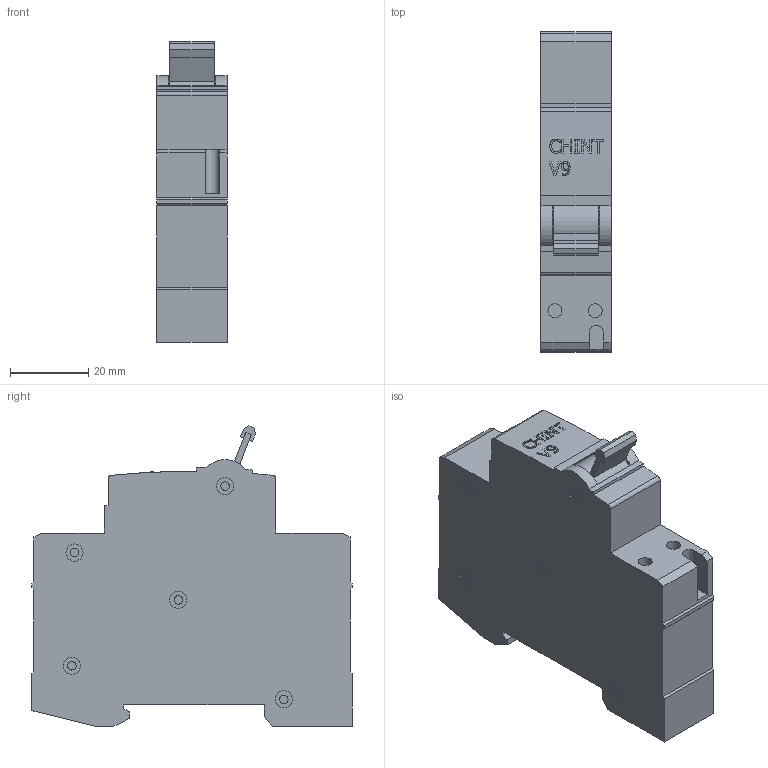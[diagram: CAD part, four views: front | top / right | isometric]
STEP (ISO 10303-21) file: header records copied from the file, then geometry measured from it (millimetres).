
FILE_DESCRIPTION(/* description */ (''),/* implementation_level */ '2;1');
FILE_NAME(/* name */ 'D:\CHINT\Аксессуары для автоматического выключателя Серия NB1\Расцепитель минимального напряжения V9 для NB1, AC230V( электронный) (R) (CHINT).stp',/* time_stamp */ '2017-09-30T16:44:05+04:00',/* author */ ('RSagdiev'),/* organization */ (''),/* preprocessor_version */ 'ST-DEVELOPER v16.5',/* originating_system */ 'Autodesk Inventor 2017',/* authorisation */ '');
FILE_SCHEMA (('AUTOMOTIVE_DESIGN { 1 0 10303 214 3 1 1 }'));
Length unit declared in the file: millimetre
Products named in the file (1): Расцепитель \X2\043C0438043D
0438043C0430043B044C043D043E0433043E\X0\ \X2\043D0430043F0440044F04360435
043D0438044F\X0\ V9 для NB1, AC230V( \X2\044D043B0435
043A04420440043E043D043D044B0439\X0\) (R) (CHINT)
Bounding box: 18 x 82 x 76.99 mm (x, y, z)
Volume: 80296.6 mm3; surface area: 16540.8 mm2
Topology: 3 solids, 3 shells, 213 faces, 527 edges, 350 vertices
Faces by surface type: plane 136, cylinder 42, bspline 35
Full cylindrical faces by diameter (mm): 2.2 x11, 3.575 x2, 4.4 x10
Entity records: 6854 total; most frequent: CARTESIAN_POINT 1940, ORIENTED_EDGE 1008, DIRECTION 918, EDGE_CURVE 504, VERTEX_POINT 350, LINE 308, VECTOR 308, AXIS2_PLACEMENT_3D 305
